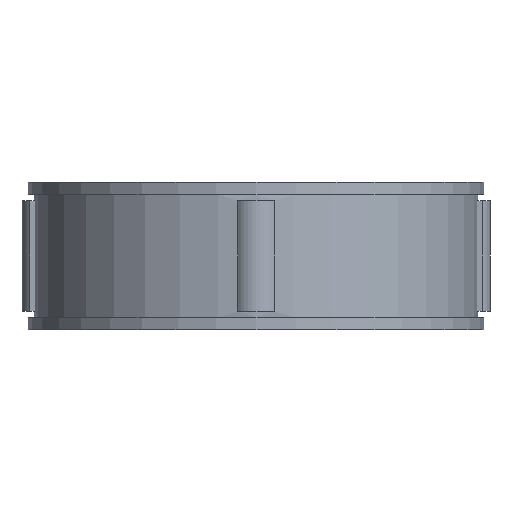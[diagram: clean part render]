
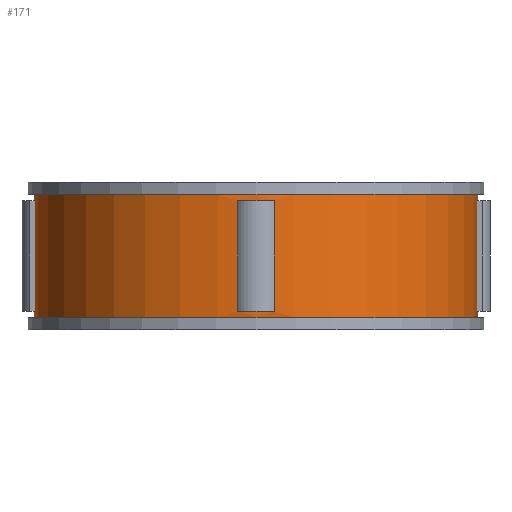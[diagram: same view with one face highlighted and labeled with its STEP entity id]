
A CAD part, front view. The second image highlights one B-rep face of the part: STEP entity #171.
In plain terms, the highlighted cylindrical face has radius 18 mm (diameter 36 mm), a full revolution.
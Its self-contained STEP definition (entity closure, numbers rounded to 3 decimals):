
#171=ADVANCED_FACE('',(#359,#360,#361,#362,#363,#364),#219,.T.);
#219=CYLINDRICAL_SURFACE('',#882,18.);
#231=LINE('',#1207,#295);
#232=LINE('',#1212,#296);
#233=LINE('',#1215,#297);
#234=LINE('',#1220,#298);
#235=LINE('',#1223,#299);
#236=LINE('',#1228,#300);
#237=LINE('',#1234,#301);
#238=LINE('',#1238,#302);
#295=VECTOR('',#966,1.);
#296=VECTOR('',#969,1.);
#297=VECTOR('',#972,1.);
#298=VECTOR('',#975,1.);
#299=VECTOR('',#978,1.);
#300=VECTOR('',#981,1.);
#301=VECTOR('',#986,1.);
#302=VECTOR('',#989,1.);
#359=FACE_BOUND('',#383,.T.);
#360=FACE_BOUND('',#384,.T.);
#361=FACE_BOUND('',#385,.T.);
#362=FACE_BOUND('',#386,.T.);
#363=FACE_BOUND('',#387,.T.);
#364=FACE_BOUND('',#388,.T.);
#383=EDGE_LOOP('',(#447));
#384=EDGE_LOOP('',(#448));
#385=EDGE_LOOP('',(#449,#450,#451,#452));
#386=EDGE_LOOP('',(#453,#454,#455,#456));
#387=EDGE_LOOP('',(#457,#458,#459,#460));
#388=EDGE_LOOP('',(#461,#462,#463,#464));
#447=ORIENTED_EDGE('',*,*,#727,.F.);
#448=ORIENTED_EDGE('',*,*,#728,.T.);
#449=ORIENTED_EDGE('',*,*,#729,.F.);
#450=ORIENTED_EDGE('',*,*,#730,.T.);
#451=ORIENTED_EDGE('',*,*,#731,.F.);
#452=ORIENTED_EDGE('',*,*,#732,.F.);
#453=ORIENTED_EDGE('',*,*,#733,.F.);
#454=ORIENTED_EDGE('',*,*,#734,.T.);
#455=ORIENTED_EDGE('',*,*,#735,.F.);
#456=ORIENTED_EDGE('',*,*,#736,.F.);
#457=ORIENTED_EDGE('',*,*,#737,.F.);
#458=ORIENTED_EDGE('',*,*,#738,.T.);
#459=ORIENTED_EDGE('',*,*,#739,.F.);
#460=ORIENTED_EDGE('',*,*,#740,.F.);
#461=ORIENTED_EDGE('',*,*,#741,.F.);
#462=ORIENTED_EDGE('',*,*,#742,.T.);
#463=ORIENTED_EDGE('',*,*,#743,.T.);
#464=ORIENTED_EDGE('',*,*,#744,.T.);
#655=VERTEX_POINT('',#1204);
#656=VERTEX_POINT('',#1206);
#657=VERTEX_POINT('',#1208);
#658=VERTEX_POINT('',#1209);
#659=VERTEX_POINT('',#1211);
#660=VERTEX_POINT('',#1213);
#661=VERTEX_POINT('',#1216);
#662=VERTEX_POINT('',#1217);
#663=VERTEX_POINT('',#1219);
#664=VERTEX_POINT('',#1221);
#665=VERTEX_POINT('',#1224);
#666=VERTEX_POINT('',#1225);
#667=VERTEX_POINT('',#1227);
#668=VERTEX_POINT('',#1229);
#669=VERTEX_POINT('',#1232);
#670=VERTEX_POINT('',#1233);
#671=VERTEX_POINT('',#1235);
#672=VERTEX_POINT('',#1237);
#727=EDGE_CURVE('',#655,#655,#831,.T.);
#728=EDGE_CURVE('',#656,#656,#832,.T.);
#729=EDGE_CURVE('',#657,#658,#231,.T.);
#730=EDGE_CURVE('',#657,#659,#833,.T.);
#731=EDGE_CURVE('',#660,#659,#232,.T.);
#732=EDGE_CURVE('',#658,#660,#834,.T.);
#733=EDGE_CURVE('',#661,#662,#233,.T.);
#734=EDGE_CURVE('',#661,#663,#835,.T.);
#735=EDGE_CURVE('',#664,#663,#234,.T.);
#736=EDGE_CURVE('',#662,#664,#836,.T.);
#737=EDGE_CURVE('',#665,#666,#235,.T.);
#738=EDGE_CURVE('',#665,#667,#837,.T.);
#739=EDGE_CURVE('',#668,#667,#236,.T.);
#740=EDGE_CURVE('',#666,#668,#838,.T.);
#741=EDGE_CURVE('',#669,#670,#839,.T.);
#742=EDGE_CURVE('',#669,#671,#237,.T.);
#743=EDGE_CURVE('',#671,#672,#840,.T.);
#744=EDGE_CURVE('',#672,#670,#238,.T.);
#831=CIRCLE('',#872,18.);
#832=CIRCLE('',#873,18.);
#833=CIRCLE('',#874,18.);
#834=CIRCLE('',#875,18.);
#835=CIRCLE('',#876,18.);
#836=CIRCLE('',#877,18.);
#837=CIRCLE('',#878,18.);
#838=CIRCLE('',#879,18.);
#839=CIRCLE('',#880,18.);
#840=CIRCLE('',#881,18.);
#872=AXIS2_PLACEMENT_3D('',#1203,#962,#963);
#873=AXIS2_PLACEMENT_3D('',#1205,#964,#965);
#874=AXIS2_PLACEMENT_3D('',#1210,#967,#968);
#875=AXIS2_PLACEMENT_3D('',#1214,#970,#971);
#876=AXIS2_PLACEMENT_3D('',#1218,#973,#974);
#877=AXIS2_PLACEMENT_3D('',#1222,#976,#977);
#878=AXIS2_PLACEMENT_3D('',#1226,#979,#980);
#879=AXIS2_PLACEMENT_3D('',#1230,#982,#983);
#880=AXIS2_PLACEMENT_3D('',#1231,#984,#985);
#881=AXIS2_PLACEMENT_3D('',#1236,#987,#988);
#882=AXIS2_PLACEMENT_3D('',#1239,#990,#991);
#962=DIRECTION('',(0.,0.,1.));
#963=DIRECTION('',(1.,0.,0.));
#964=DIRECTION('',(0.,0.,1.));
#965=DIRECTION('',(1.,0.,0.));
#966=DIRECTION('',(0.,0.,-1.));
#967=DIRECTION('',(0.,0.,1.));
#968=DIRECTION('',(1.,0.,0.));
#969=DIRECTION('',(0.,0.,1.));
#970=DIRECTION('',(0.,0.,1.));
#971=DIRECTION('',(1.,0.,0.));
#972=DIRECTION('',(0.,0.,-1.));
#973=DIRECTION('',(0.,0.,1.));
#974=DIRECTION('',(1.,0.,0.));
#975=DIRECTION('',(0.,0.,1.));
#976=DIRECTION('',(0.,0.,1.));
#977=DIRECTION('',(1.,0.,0.));
#978=DIRECTION('',(0.,0.,-1.));
#979=DIRECTION('',(0.,0.,1.));
#980=DIRECTION('',(1.,0.,0.));
#981=DIRECTION('',(0.,0.,1.));
#982=DIRECTION('',(0.,0.,1.));
#983=DIRECTION('',(1.,0.,0.));
#984=DIRECTION('',(0.,0.,-1.));
#985=DIRECTION('',(-1.,0.,0.));
#986=DIRECTION('',(0.,0.,-1.));
#987=DIRECTION('',(0.,0.,-1.));
#988=DIRECTION('',(-1.,0.,0.));
#989=DIRECTION('',(0.,0.,1.));
#990=DIRECTION('',(0.,0.,-1.));
#991=DIRECTION('',(-1.,0.,0.));
#1203=CARTESIAN_POINT('',(0.,0.,11.));
#1204=CARTESIAN_POINT('',(18.,0.,11.));
#1205=CARTESIAN_POINT('',(0.,0.,1.));
#1206=CARTESIAN_POINT('',(18.,0.,1.));
#1207=CARTESIAN_POINT('',(17.94,-1.471,12.));
#1208=CARTESIAN_POINT('',(17.94,-1.471,10.5));
#1209=CARTESIAN_POINT('',(17.94,-1.471,1.5));
#1210=CARTESIAN_POINT('',(0.,0.,10.5));
#1211=CARTESIAN_POINT('',(17.94,1.471,10.5));
#1212=CARTESIAN_POINT('',(17.94,1.471,12.));
#1213=CARTESIAN_POINT('',(17.94,1.471,1.5));
#1214=CARTESIAN_POINT('',(0.,0.,1.5));
#1215=CARTESIAN_POINT('',(1.471,17.94,12.));
#1216=CARTESIAN_POINT('',(1.471,17.94,10.5));
#1217=CARTESIAN_POINT('',(1.471,17.94,1.5));
#1218=CARTESIAN_POINT('',(0.,0.,10.5));
#1219=CARTESIAN_POINT('',(-1.471,17.94,10.5));
#1220=CARTESIAN_POINT('',(-1.471,17.94,12.));
#1221=CARTESIAN_POINT('',(-1.471,17.94,1.5));
#1222=CARTESIAN_POINT('',(0.,0.,1.5));
#1223=CARTESIAN_POINT('',(-17.94,1.471,12.));
#1224=CARTESIAN_POINT('',(-17.94,1.471,10.5));
#1225=CARTESIAN_POINT('',(-17.94,1.471,1.5));
#1226=CARTESIAN_POINT('',(0.,0.,10.5));
#1227=CARTESIAN_POINT('',(-17.94,-1.471,10.5));
#1228=CARTESIAN_POINT('',(-17.94,-1.471,12.));
#1229=CARTESIAN_POINT('',(-17.94,-1.471,1.5));
#1230=CARTESIAN_POINT('',(0.,0.,1.5));
#1231=CARTESIAN_POINT('',(0.,0.,10.5));
#1232=CARTESIAN_POINT('',(1.471,-17.94,10.5));
#1233=CARTESIAN_POINT('',(-1.471,-17.94,10.5));
#1234=CARTESIAN_POINT('',(1.471,-17.94,12.));
#1235=CARTESIAN_POINT('',(1.471,-17.94,1.5));
#1236=CARTESIAN_POINT('',(0.,0.,1.5));
#1237=CARTESIAN_POINT('',(-1.471,-17.94,1.5));
#1238=CARTESIAN_POINT('',(-1.471,-17.94,12.));
#1239=CARTESIAN_POINT('',(0.,0.,12.));
